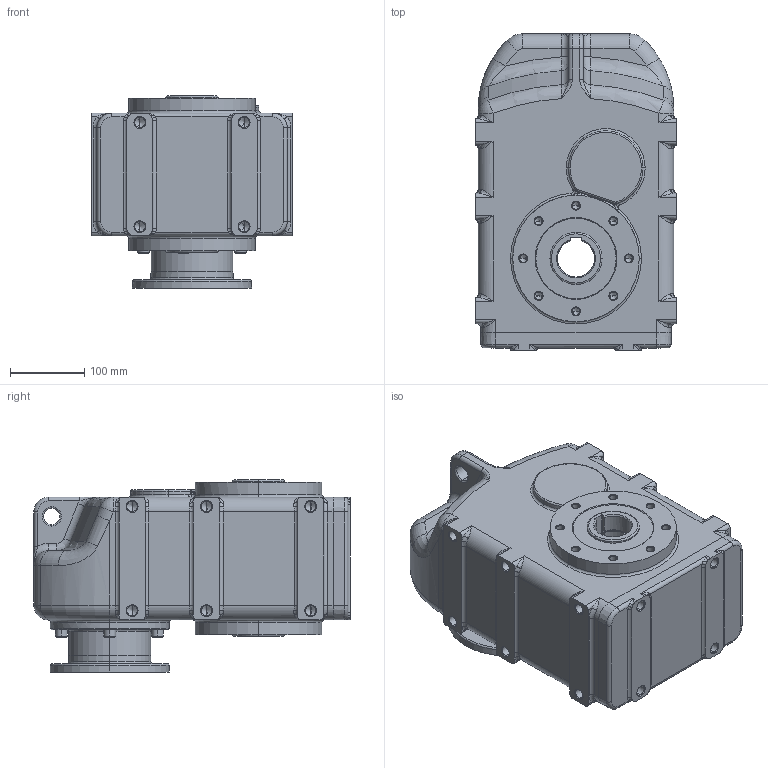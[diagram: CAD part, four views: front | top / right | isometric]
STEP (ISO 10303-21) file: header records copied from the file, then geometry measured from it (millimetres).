
FILE_DESCRIPTION (( 'STEP AP214' ), '1' );
FILE_NAME ('tnc43-f130-ap90.STEP', '2009-09-21T10:07:07', ( '' ), ( '' ), 'SwSTEP 2.0', 'SolidWorks 2003240', '' );
FILE_SCHEMA (( 'AUTOMOTIVE_DESIGN' ));
Length unit declared in the file: millimetre
Products named in the file (4): Skøíò TNC4_Skøíò TNC43 AP90; N021143_Šroub s vnitøním šestihranem DIN 912 - M8 x 25; Pøíruba MRT120 kulatá _110-130-150; tnc43-f130-ap90
Assembly tree (8 placements, depth 2):
  tnc43-f130-ap90
    N021143_Šroub s vnitøním šestihranem DIN 912 - M8 x 25  x6
    Pøíruba MRT120 kulatá _110-130-150
    Skøíò TNC4_Skøíò TNC43 AP90
Bounding box: 270 x 425 x 258 mm (x, y, z)
Volume: 18039631.1 mm3; surface area: 606843.5 mm2
Topology: 8 solids, 8 shells, 973 faces, 2258 edges, 1258 vertices
Faces by surface type: cylinder 280, cone 271, plane 175, torus 159, bspline 84, sphere 4
Entity records: 103596 total; most frequent: CARTESIAN_POINT 83567, DIRECTION 4326, ORIENTED_EDGE 3808, EDGE_CURVE 1904, AXIS2_PLACEMENT_3D 1803, VERTEX_POINT 1128, CIRCLE 1033, EDGE_LOOP 930
